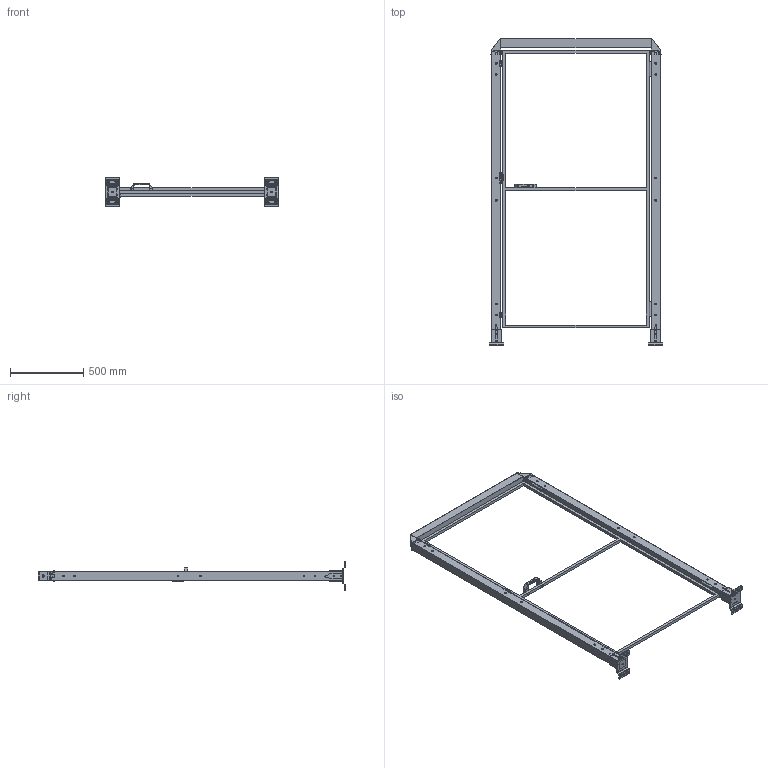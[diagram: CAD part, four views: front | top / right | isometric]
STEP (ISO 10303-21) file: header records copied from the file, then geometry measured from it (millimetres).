
FILE_DESCRIPTION(('STEP AP242'),'1');
FILE_NAME('vfda_bscncr2_10002020.stp','2025-01-23T13:57:10',('TraceParts'),('TraceParts S.A.'),'Spatial InterOp 3D',' ',' ');
FILE_SCHEMA(('AP242_MANAGED_MODEL_BASED_3D_ENGINEERING_MIM_LF {1 0 10303 442 1 1 4}'));
Length unit declared in the file: millimetre
Products named in the file (1): vfda_bscncr2_10002020_1
Bounding box: 1190 x 2101 x 192 mm (x, y, z)
Volume: 5011552.4 mm3; surface area: 3212460 mm2
Topology: 12 solids, 12 shells, 1942 faces, 5208 edges, 3340 vertices
Faces by surface type: plane 950, cylinder 652, bspline 236, cone 60, torus 40, sphere 4
Entity records: 78408 total; most frequent: CARTESIAN_POINT 14215, ORIENTED_EDGE 10408, DIRECTION 9578, EDGE_CURVE 5204, VERTEX_POINT 3340, LINE 3216, VECTOR 3216, AXIS2_PLACEMENT_3D 3181
